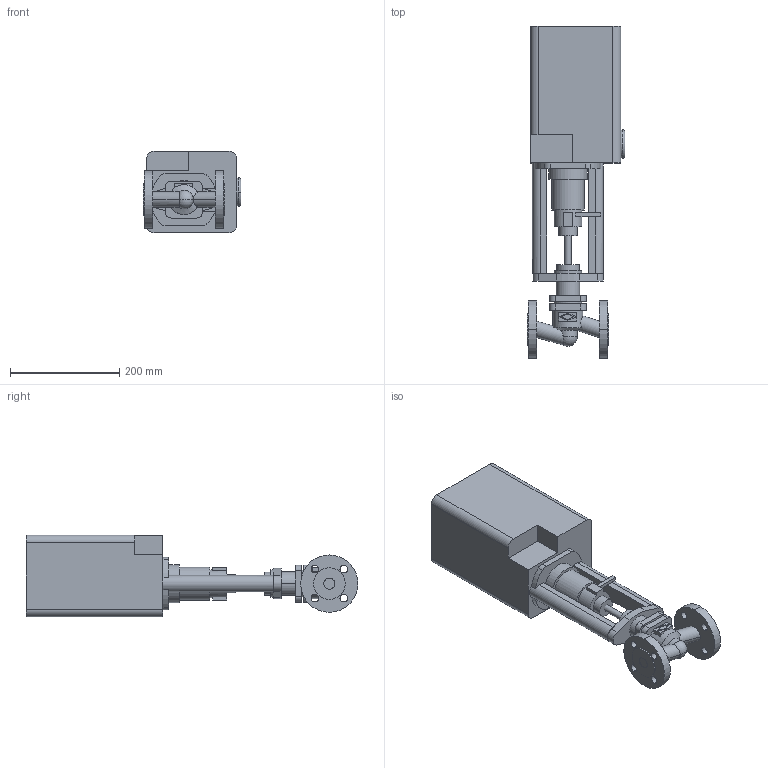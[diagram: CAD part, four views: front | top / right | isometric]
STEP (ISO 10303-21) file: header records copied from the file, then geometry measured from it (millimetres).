
FILE_DESCRIPTION(('OneSpaceDesigner STEP Export'),'2;1');
FILE_NAME('c000001175.stp','2005-02-16T12:05:55',(''),(''),'OneSpace Designer STEP processor (Jan. 2003) for AP203(Solid Model)','OneSpace Designer 12.01D 09-Jul-2004 (C) CoCreate Software GmbH','');
FILE_SCHEMA(('CONFIG_CONTROL_DESIGN'));
Length unit declared in the file: millimetre
Products named in the file (2): 1; 2
Bounding box: 179.6 x 608.5 x 150 mm (x, y, z)
Volume: 7421105.7 mm3; surface area: 371815.4 mm2
Topology: 2 solids, 2 shells, 174 faces, 440 edges, 291 vertices
Faces by surface type: plane 86, cylinder 82, sphere 2, cone 2, torus 2
Entity records: 5199 total; most frequent: CARTESIAN_POINT 1005, ORIENTED_EDGE 876, DIRECTION 778, EDGE_CURVE 438, VERTEX_POINT 291, AXIS2_PLACEMENT_3D 269, VECTOR 240, LINE 240
